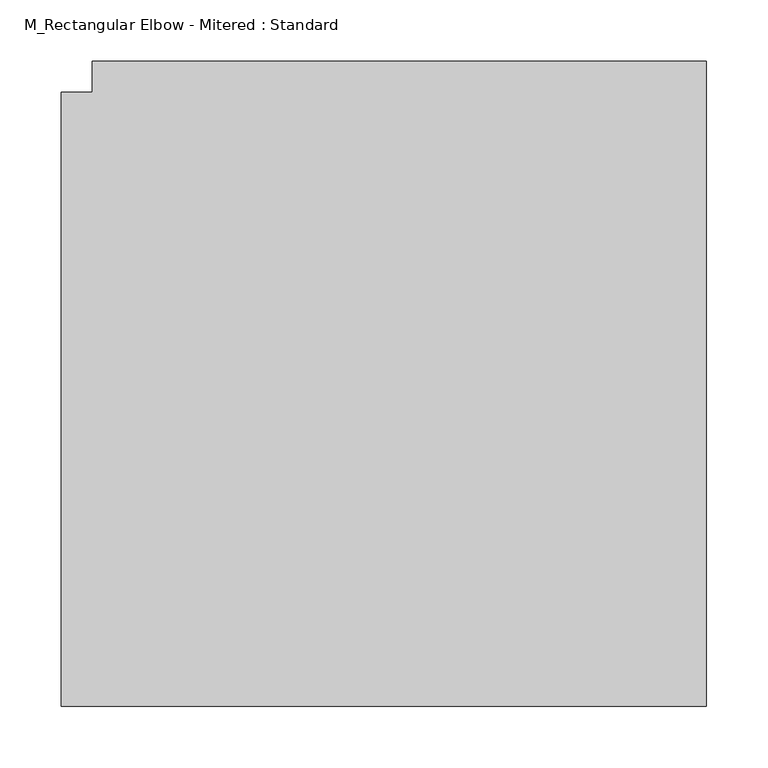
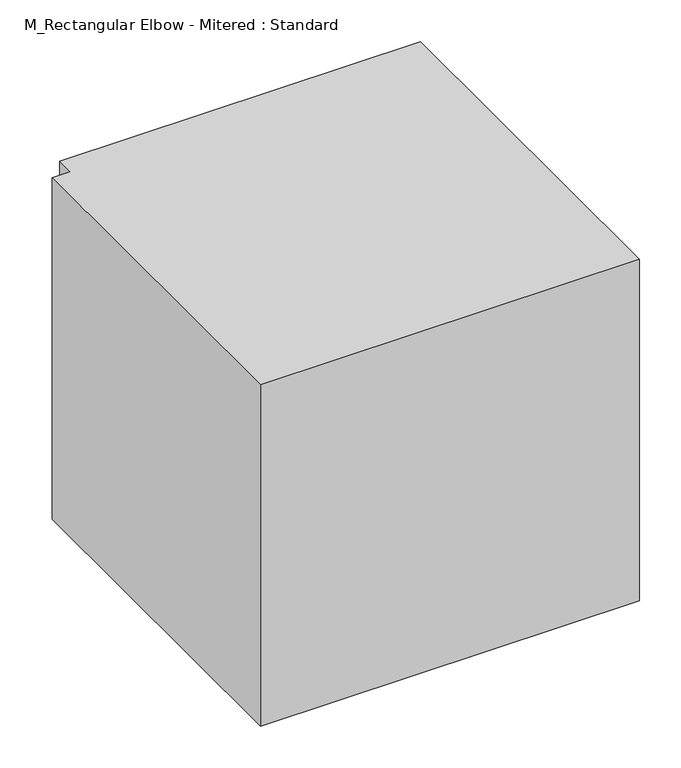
"""IFC4 building model written with IfcOpenShell, lengths in millimetres: duct fitting geometry, M_Rectangular Elbow - Mitered : Standard."""

import ifcopenshell
import ifcopenshell.guid

model = None  # the IFC model being written
_history = None  # IfcOwnerHistory: only IFC2X3 demands one
_inside = {}  # id of a spatial element -> (the spatial element, [elements in it])
_under = {}  # id of a project, library or spatial element -> (it, [spatial elements below it])
_declared = {}  # id of a project -> (the project, [libraries it declares])
_typed = {}  # id of a type object -> (the type object, [elements of that type])
_made_of = {}  # id of a material, layer set ... -> (it, [elements and type objects made of it])


def new_model(schema):
    """Start an empty IFC model of exactly this schema.

    Asked for "IFC4X3", IfcOpenShell would pick the latest addendum, in which some entities
    have other attributes; the version numbers below select the first issue.
    IFC2X3 requires an IfcOwnerHistory on every rooted entity: one is made here for all.
    """
    global model, _history
    if schema == "IFC4X3":
        model = ifcopenshell.file(schema_version=(4, 3, 0, 0))
    else:
        model = ifcopenshell.file(schema=schema)
    _inside.clear()
    _under.clear()
    _declared.clear()
    _typed.clear()
    _made_of.clear()
    _history = None
    if model.schema == "IFC2X3":
        org = make("IfcOrganization", Name="unknown")
        user = make(
            "IfcPersonAndOrganization",
            ThePerson=make("IfcPerson", FamilyName="unknown"),
            TheOrganization=org,
        )
        app = make(
            "IfcApplication",
            ApplicationDeveloper=org,
            Version="unknown",
            ApplicationFullName="unknown",
            ApplicationIdentifier="unknown",
        )
        _history = make(
            "IfcOwnerHistory",
            OwningUser=user,
            OwningApplication=app,
            ChangeAction="ADDED",
            CreationDate=0,
        )
    return model


def make(cls, **values):
    """One entity of the class cls with the attributes given. An attribute that is None is left unset."""
    return model.create_entity(
        cls, **{name: value for name, value in values.items() if value is not None}
    )


def rooted(cls, **values):
    """An entity with a GlobalId (a new one), such as an element, a storey or a relation."""
    return make(cls, GlobalId=ifcopenshell.guid.new(), OwnerHistory=_history, **values)


def si_unit(unit_type, name, prefix=None):
    """IfcSIUnit, for example si_unit("LENGTHUNIT", "METRE", prefix="MILLI")."""
    return make("IfcSIUnit", UnitType=unit_type, Prefix=prefix, Name=name)


def assignment(units):
    """IfcUnitAssignment: the units of a project."""
    return None if units is None else make("IfcUnitAssignment", Units=units)


def point(xyz):
    """IfcCartesianPoint."""
    return None if xyz is None else make("IfcCartesianPoint", Coordinates=xyz)


def direction(xyz):
    """IfcDirection."""
    return None if xyz is None else make("IfcDirection", DirectionRatios=xyz)


def frame(location, z_axis=None, x_axis=None):
    """IfcAxis2Placement3D, a coordinate frame: its origin and axes. An axis left out is left unset."""
    return make(
        "IfcAxis2Placement3D",
        Location=point(location),
        Axis=direction(z_axis),
        RefDirection=direction(x_axis),
    )


def origin():
    """The frame at (0, 0, 0) with its axes left unset."""
    return frame((0.0, 0.0, 0.0))


def place(relative_to, where):
    """IfcLocalPlacement: puts the frame where relative to a parent placement (None: the world)."""
    return make(
        "IfcLocalPlacement", PlacementRelTo=relative_to, RelativePlacement=where
    )


def context(
    kind, dimensions, precision=None, world=None, true_north=None, identifier=None
):
    """IfcGeometricRepresentationContext, for example the 3D "Model" context."""
    return make(
        "IfcGeometricRepresentationContext",
        ContextIdentifier=identifier,
        ContextType=kind,
        CoordinateSpaceDimension=dimensions,
        Precision=precision,
        WorldCoordinateSystem=world,
        TrueNorth=true_north,
    )


def project(units=None, contexts=None):
    """IfcProject with its units and contexts."""
    return rooted(
        "IfcProject",
        Name="project",
        RepresentationContexts=contexts,
        UnitsInContext=assignment(units),
    )


def spatial(cls, under=None, at=None, **own):
    """A site, building, storey or space (cls), placed at a placement, below another one or the project."""
    s = rooted(cls, ObjectPlacement=at, **own)
    if under is not None:
        _under.setdefault(under.id(), (under, []))[1].append(s)
    return s


def polyline(points):
    """IfcPolyline through the points."""
    return make("IfcPolyline", Points=[point(p) for p in points])


def outline(outer, holes=None, kind="AREA"):
    """IfcArbitraryClosedProfileDef: a profile drawn as a closed curve; with holes, ...WithVoids."""
    if holes is None:
        return make("IfcArbitraryClosedProfileDef", ProfileType=kind, OuterCurve=outer)
    return make(
        "IfcArbitraryProfileDefWithVoids",
        ProfileType=kind,
        OuterCurve=outer,
        InnerCurves=holes,
    )


def extrude(swept, where, along, depth):
    """IfcExtrudedAreaSolid: the profile swept, set in the frame where, extruded along a direction by depth."""
    return make(
        "IfcExtrudedAreaSolid",
        SweptArea=swept,
        Position=where,
        ExtrudedDirection=direction(along),
        Depth=depth,
    )


def shape(context_of_items, identifier, shape_type, items):
    """IfcShapeRepresentation: the items that make up one representation, for example the "Body"."""
    return make(
        "IfcShapeRepresentation",
        ContextOfItems=context_of_items,
        RepresentationIdentifier=identifier,
        RepresentationType=shape_type,
        Items=items,
    )


def source(mapping_origin, context_of_items, identifier, shape_type, items):
    """IfcRepresentationMap: a shape defined once, which mapped items show again and again."""
    return make(
        "IfcRepresentationMap",
        MappingOrigin=mapping_origin,
        MappedRepresentation=shape(context_of_items, identifier, shape_type, items),
    )


def transform(
    local_origin,
    x_axis=None,
    y_axis=None,
    z_axis=None,
    scale=None,
    scale2=None,
    scale3=None,
    uniform=True,
):
    """IfcCartesianTransformationOperator3D, or its non-uniform kind. x_axis, y_axis, z_axis: its Axis1, 2, 3."""
    if uniform:
        return make(
            "IfcCartesianTransformationOperator3D",
            Axis1=direction(x_axis),
            Axis2=direction(y_axis),
            LocalOrigin=point(local_origin),
            Scale=scale,
            Axis3=direction(z_axis),
        )
    return make(
        "IfcCartesianTransformationOperator3DnonUniform",
        Axis1=direction(x_axis),
        Axis2=direction(y_axis),
        LocalOrigin=point(local_origin),
        Scale=scale,
        Axis3=direction(z_axis),
        Scale2=scale2,
        Scale3=scale3,
    )


def mapped(mapping_source, mapping_target):
    """IfcMappedItem: shows the shape of a source again, moved by a transform."""
    return make(
        "IfcMappedItem", MappingSource=mapping_source, MappingTarget=mapping_target
    )


def made_of(thing, what):
    """Note that an element or type object is made of a material, layer set ...; save() writes the relation."""
    if what is not None:
        _made_of.setdefault(what.id(), (what, []))[1].append(thing)
    return thing


def element(
    cls,
    number,
    at=None,
    inside=None,
    cuts=None,
    type_object=None,
    material=None,
    context=None,
    identifier="Body",
    shape_type=None,
    held_by="IfcProductDefinitionShape",
    body=None,
    shapes=None,
    **own,
):
    """One element of the class cls, such as IfcWall. Its Tag is "e" and its number.

    at: its placement. inside: the storey or other place that contains it. cuts: it is an
    opening in that element (IfcRelVoidsElement). A single representation is given by context,
    identifier, shape_type and body (its items); several are given by shapes. held_by: the class
    of the entity that holds the representations. save() writes the other relations.
    """
    e = rooted(cls, Tag="e%d" % number, ObjectPlacement=at, **own)
    if body is not None:
        shapes = [shape(context, identifier, shape_type, body)]
    if shapes is not None:
        e.Representation = make(held_by, Representations=shapes)
    if inside is not None:
        _inside.setdefault(inside.id(), (inside, []))[1].append(e)
    if cuts is not None:
        rooted(
            "IfcRelVoidsElement", RelatingBuildingElement=cuts, RelatedOpeningElement=e
        )
    if type_object is not None:
        _typed.setdefault(type_object.id(), (type_object, []))[1].append(e)
    return made_of(e, material)


def aggregate(whole, parts):
    """IfcRelAggregates: a whole, such as a stair, and the parts it consists of."""
    return rooted("IfcRelAggregates", RelatingObject=whole, RelatedObjects=parts)


def save(model, path):
    """Write the relations noted so far, then the file.

    IfcRelAggregates (storeys below a building ...), IfcRelContainedInSpatialStructure (elements
    in a storey), IfcRelDefinesByType, IfcRelAssociatesMaterial and IfcRelDeclares: one each for
    every whole, place, type object, material and project.
    """
    for whole, parts in _under.values():
        aggregate(whole, parts)
    for where, things in _inside.values():
        rooted(
            "IfcRelContainedInSpatialStructure",
            RelatedElements=things,
            RelatingStructure=where,
        )
    for kind, things in _typed.values():
        rooted("IfcRelDefinesByType", RelatedObjects=things, RelatingType=kind)
    for what, things in _made_of.values():
        rooted("IfcRelAssociatesMaterial", RelatedObjects=things, RelatingMaterial=what)
    for by, libraries in _declared.values():
        rooted("IfcRelDeclares", RelatingContext=by, RelatedDefinitions=libraries)
    model.write(path)


def m_rectangular_elbow_mitered_standard_083ec54f(model_context):
    return source(origin(), model_context, "Body", "SweptSolid", [
        extrude(outline(polyline([(-275.0, -250.0), (-275.0, 250.0), (-250.0, 250.0), (-250.0, 275.0), (250.0, 275.0), (250.0, -250.0), (-275.0, -250.0)])), frame((0.0, 0.0, -250.0), z_axis=(0.0, 0.0, 1.0), x_axis=(1.0, 0.0, 0.0)), (0.0, 0.0, 1.0), 500.0),
        extrude(outline(polyline([(-275.0, -250.0), (-275.0, 250.0), (-250.0, 250.0), (-250.0, 275.0), (250.0, 275.0), (250.0, -250.0), (-275.0, -250.0)])), frame((0.0, 0.0, -250.0), z_axis=(0.0, 0.0, 1.0), x_axis=(1.0, 0.0, 0.0)), (0.0, 0.0, 1.0), 500.0),
        extrude(outline(polyline([(-275.0, -250.0), (-275.0, 250.0), (-250.0, 250.0), (-250.0, 275.0), (250.0, 275.0), (250.0, -250.0), (-275.0, -250.0)])), frame((0.0, 0.0, -250.0), z_axis=(0.0, 0.0, 1.0), x_axis=(1.0, 0.0, 0.0)), (0.0, 0.0, 1.0), 500.0),
    ])


if __name__ == "__main__":
    model = new_model("IFC4")
    model_context = context("Model", 3, world=origin())
    ifc_project = project(units=[si_unit("LENGTHUNIT", "METRE", prefix="MILLI")], contexts=[model_context])
    site = spatial("IfcSite", under=ifc_project)
    building = spatial("IfcBuilding", under=site)
    placement = place(None, origin())
    m_rectangular_elbow_mitered_standard_shape = m_rectangular_elbow_mitered_standard_083ec54f(model_context)
    element("IfcDuctFitting", 1, ObjectType="M_Rectangular Elbow - Mitered : Standard", at=placement, inside=building, context=model_context, shape_type="MappedRepresentation", body=[
        mapped(m_rectangular_elbow_mitered_standard_shape, transform((0.0, 0.0, 0.0), x_axis=(1.0, 0.0, 0.0), y_axis=(0.0, 1.0, 0.0), z_axis=(0.0, 0.0, 1.0))),
    ])
    save(model, "model.ifc")
